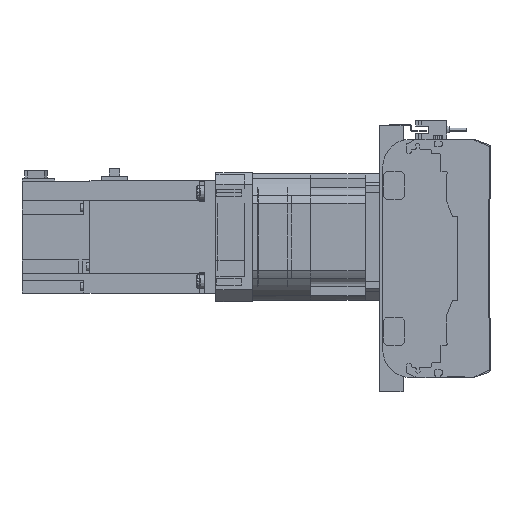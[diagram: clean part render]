
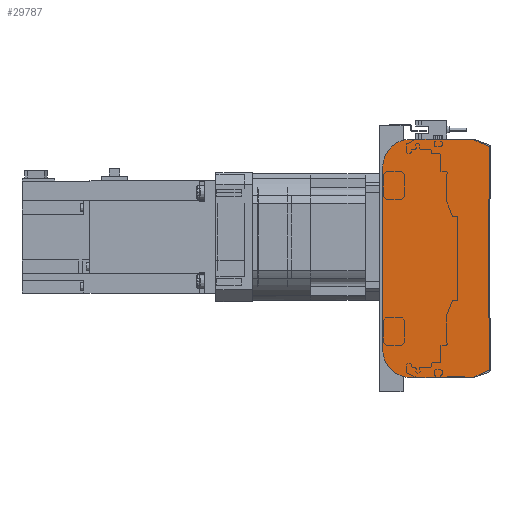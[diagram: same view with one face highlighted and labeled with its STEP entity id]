
A CAD part, left-side view. The second image highlights one B-rep face of the part: STEP entity #29787.
In plain terms, the highlighted planar face has unit normal (-1, 0, 0).
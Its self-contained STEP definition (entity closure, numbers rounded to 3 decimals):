
#2407=CIRCLE('',#32565,2.);
#2408=CIRCLE('',#32568,2.);
#2409=CIRCLE('',#32571,20.);
#2410=CIRCLE('',#32574,20.);
#8492=ORIENTED_EDGE('',*,*,#14459,.F.);
#8493=ORIENTED_EDGE('',*,*,#14537,.F.);
#8494=ORIENTED_EDGE('',*,*,#14535,.F.);
#8495=ORIENTED_EDGE('',*,*,#14533,.F.);
#8496=ORIENTED_EDGE('',*,*,#14186,.F.);
#8497=ORIENTED_EDGE('',*,*,#14532,.F.);
#8498=ORIENTED_EDGE('',*,*,#14530,.F.);
#8499=ORIENTED_EDGE('',*,*,#14528,.F.);
#8500=ORIENTED_EDGE('',*,*,#14526,.F.);
#8501=ORIENTED_EDGE('',*,*,#14524,.F.);
#14186=EDGE_CURVE('',#17484,#17485,#19978,.T.);
#14459=EDGE_CURVE('',#17556,#17557,#20092,.T.);
#14524=EDGE_CURVE('',#17557,#17598,#20137,.T.);
#14526=EDGE_CURVE('',#17598,#17599,#2407,.T.);
#14528=EDGE_CURVE('',#17599,#17600,#20140,.T.);
#14530=EDGE_CURVE('',#17600,#17601,#2408,.T.);
#14532=EDGE_CURVE('',#17601,#17484,#20143,.T.);
#14533=EDGE_CURVE('',#17485,#17602,#2409,.T.);
#14535=EDGE_CURVE('',#17602,#17603,#20145,.T.);
#14537=EDGE_CURVE('',#17603,#17556,#2410,.T.);
#17484=VERTEX_POINT('',#50708);
#17485=VERTEX_POINT('',#50710);
#17556=VERTEX_POINT('',#51106);
#17557=VERTEX_POINT('',#51108);
#17598=VERTEX_POINT('',#51238);
#17599=VERTEX_POINT('',#51242);
#17600=VERTEX_POINT('',#51246);
#17601=VERTEX_POINT('',#51250);
#17602=VERTEX_POINT('',#51256);
#17603=VERTEX_POINT('',#51260);
#19978=LINE('',#50709,#22355);
#20092=LINE('',#51107,#22469);
#20137=LINE('',#51237,#22514);
#20140=LINE('',#51245,#22517);
#20143=LINE('',#51253,#22520);
#20145=LINE('',#51259,#22522);
#22355=VECTOR('',#39363,1000.);
#22469=VECTOR('',#39901,1000.);
#22514=VECTOR('',#40034,1000.);
#22517=VECTOR('',#40043,1000.);
#22520=VECTOR('',#40052,1000.);
#22522=VECTOR('',#40060,1000.);
#24384=EDGE_LOOP('',(#8492,#8493,#8494,#8495,#8496,#8497,#8498,#8499,#8500,
#8501));
#26853=FACE_BOUND('',#24384,.T.);
#28358=PLANE('',#32576);
#29787=ADVANCED_FACE('',(#26853),#28358,.F.);
#32565=AXIS2_PLACEMENT_3D('',#51241,#40038,#40039);
#32568=AXIS2_PLACEMENT_3D('',#51249,#40047,#40048);
#32571=AXIS2_PLACEMENT_3D('',#51255,#40055,#40056);
#32574=AXIS2_PLACEMENT_3D('',#51263,#40064,#40065);
#32576=AXIS2_PLACEMENT_3D('',#51265,#40068,#40069);
#39363=DIRECTION('',(0.,1.,0.));
#39901=DIRECTION('',(0.,-1.,0.));
#40034=DIRECTION('',(0.,-0.913,-0.408));
#40038=DIRECTION('',(1.,0.,0.));
#40039=DIRECTION('',(0.,0.,-1.));
#40043=DIRECTION('',(0.,0.,-1.));
#40047=DIRECTION('',(1.,0.,0.));
#40048=DIRECTION('',(0.,0.,-1.));
#40052=DIRECTION('',(0.,0.913,-0.408));
#40055=DIRECTION('',(1.,0.,0.));
#40056=DIRECTION('',(0.,0.,-1.));
#40060=DIRECTION('',(0.,0.,1.));
#40064=DIRECTION('',(1.,0.,0.));
#40065=DIRECTION('',(0.,0.,-1.));
#40068=DIRECTION('',(1.,0.,0.));
#40069=DIRECTION('',(0.,0.,-1.));
#50708=CARTESIAN_POINT('',(0.,12.33,-85.));
#50709=CARTESIAN_POINT('',(0.,12.33,-85.));
#50710=CARTESIAN_POINT('',(0.,56.5,-85.));
#51106=CARTESIAN_POINT('',(0.,56.5,85.));
#51107=CARTESIAN_POINT('',(0.,56.5,85.));
#51108=CARTESIAN_POINT('',(0.,12.33,85.));
#51237=CARTESIAN_POINT('',(0.,12.33,85.));
#51238=CARTESIAN_POINT('',(0.,1.684,80.239));
#51241=CARTESIAN_POINT('',(0.,2.5,78.413));
#51242=CARTESIAN_POINT('',(0.,0.5,78.413));
#51245=CARTESIAN_POINT('',(0.,0.5,78.413));
#51246=CARTESIAN_POINT('',(0.,0.5,-78.413));
#51249=CARTESIAN_POINT('',(0.,2.5,-78.413));
#51250=CARTESIAN_POINT('',(0.,1.684,-80.239));
#51253=CARTESIAN_POINT('',(0.,1.684,-80.239));
#51255=CARTESIAN_POINT('',(0.,56.5,-65.));
#51256=CARTESIAN_POINT('',(0.,76.5,-65.));
#51259=CARTESIAN_POINT('',(0.,76.5,-65.));
#51260=CARTESIAN_POINT('',(0.,76.5,65.));
#51263=CARTESIAN_POINT('',(0.,56.5,65.));
#51265=CARTESIAN_POINT('',(0.,2.5,78.413));
